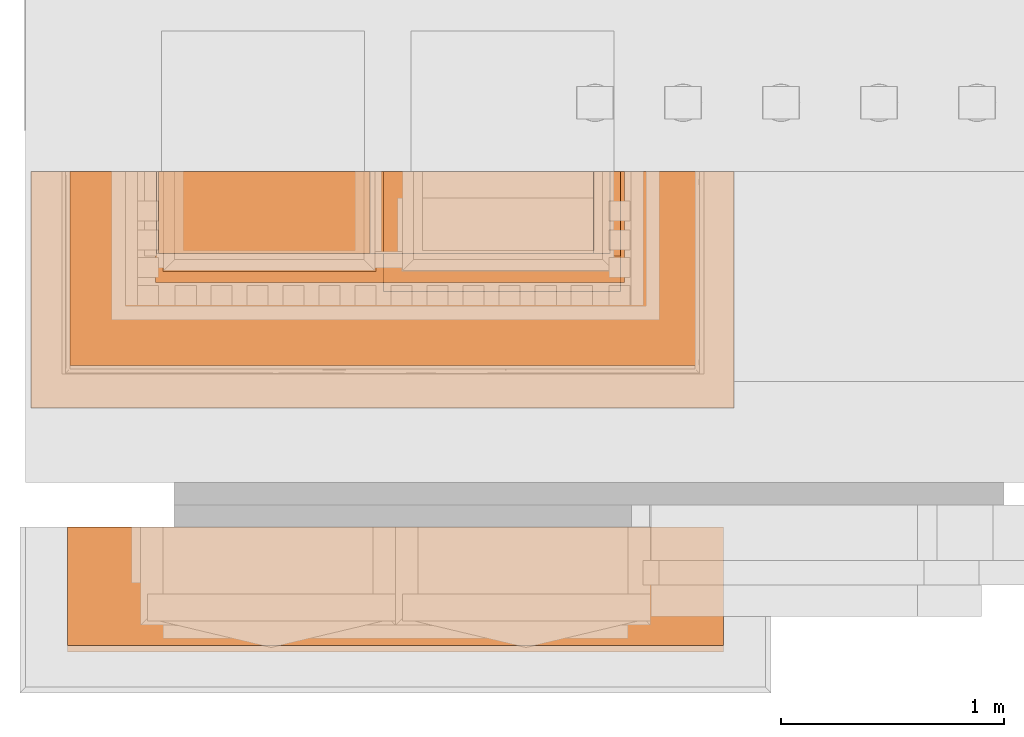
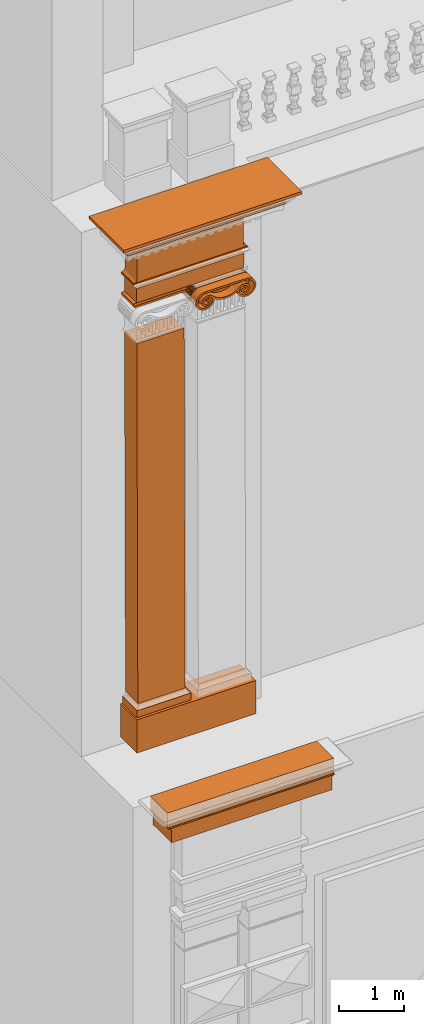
# One storey, part 4 of 44: 15 proxies.
"""IFC2X3 building model written with IfcOpenShell, lengths in metres."""

from ifc_helpers import new_model, entity, si_unit, converted_unit, derived_unit, direction, frame, frame_2d, origin, place, context, subcontext, project, spatial, polyline, circle_curve, parameter, trimmed, segment, composite_curve, rectangle, outline, extrude, material, element, save


model = new_model("IFC2X3")

# Units and contexts
model_context = context("Model", 3, precision=1e-05, world=origin(), true_north=direction((6.12303176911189e-17, 1.0)))
body_context = subcontext(model_context, "Body", "Model", "MODEL_VIEW")
ifc_project = project(units=[si_unit("LENGTHUNIT", "METRE"), si_unit("AREAUNIT", "SQUARE_METRE"), si_unit("VOLUMEUNIT", "CUBIC_METRE"), converted_unit("PLANEANGLEUNIT", "DEGREE", entity("IfcRatioMeasure", 0.0174532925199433), si_unit("PLANEANGLEUNIT", "RADIAN"), dimensions=[0, 0, 0, 0, 0, 0, 0]), si_unit("MASSUNIT", "GRAM", prefix="KILO"), derived_unit("MASSDENSITYUNIT", [(si_unit("MASSUNIT", "GRAM", prefix="KILO"), 1), (si_unit("LENGTHUNIT", "METRE"), -3)]), si_unit("TIMEUNIT", "SECOND"), si_unit("FREQUENCYUNIT", "HERTZ"), si_unit("THERMODYNAMICTEMPERATUREUNIT", "DEGREE_CELSIUS"), derived_unit("THERMALTRANSMITTANCEUNIT", [(si_unit("MASSUNIT", "GRAM", prefix="KILO"), 1), (si_unit("THERMODYNAMICTEMPERATUREUNIT", "KELVIN"), -1), (si_unit("TIMEUNIT", "SECOND"), -3)]), derived_unit("VOLUMETRICFLOWRATEUNIT", [(si_unit("LENGTHUNIT", "METRE"), 3), (si_unit("TIMEUNIT", "SECOND"), -1)]), si_unit("ELECTRICCURRENTUNIT", "AMPERE"), si_unit("ELECTRICVOLTAGEUNIT", "VOLT"), si_unit("POWERUNIT", "WATT"), si_unit("FORCEUNIT", "NEWTON", prefix="KILO"), si_unit("ILLUMINANCEUNIT", "LUX"), si_unit("LUMINOUSFLUXUNIT", "LUMEN"), si_unit("LUMINOUSINTENSITYUNIT", "CANDELA"), derived_unit("USERDEFINED", [(si_unit("MASSUNIT", "GRAM", prefix="KILO"), -1), (si_unit("LENGTHUNIT", "METRE"), -2), (si_unit("TIMEUNIT", "SECOND"), 3), (si_unit("LUMINOUSFLUXUNIT", "LUMEN"), 1)]), derived_unit("LINEARVELOCITYUNIT", [(si_unit("LENGTHUNIT", "METRE"), 1), (si_unit("TIMEUNIT", "SECOND"), -1)]), si_unit("PRESSUREUNIT", "PASCAL"), derived_unit("USERDEFINED", [(si_unit("LENGTHUNIT", "METRE"), -2), (si_unit("MASSUNIT", "GRAM", prefix="KILO"), 1), (si_unit("TIMEUNIT", "SECOND"), -2)])], contexts=[model_context])

# Site, building, storey
site_placement = place(None, origin())
site = spatial("IfcSite", under=ifc_project, at=site_placement, Name="Default", CompositionType="ELEMENT")
building_placement = place(site_placement, origin())
building = spatial("IfcBuilding", under=site, at=building_placement, CompositionType="ELEMENT")
storey_placement = place(building_placement, origin())
storey = spatial("IfcBuildingStorey", under=building, at=storey_placement, Name="Livello 1", CompositionType="ELEMENT", Elevation=0.0)

# Proxies
ifc_material_1 = material(Name="Piperno")
proxy_1_placement = place(storey_placement, frame((-11.9360302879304, -0.89446749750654, 12.793675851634)))
element("IfcBuildingElementProxy", 1, at=proxy_1_placement, inside=storey, material=ifc_material_1, Name="Stratigrafia", context=body_context, shape_type="SweptSolid", body=[
    extrude(outline(composite_curve([segment(polyline([(-1.42260387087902, -0.166572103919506), (1.42260387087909, -0.166572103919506)]), True, "CONTINUOUS"), segment(polyline([(1.42260387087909, -0.166572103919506), (1.42260387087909, 0.0627993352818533)]), True, "CONTINUOUS"), segment(trimmed(circle_curve(frame_2d((1.47038377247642, 0.0554771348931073), x_axis=(0.0417123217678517, 0.999129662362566)), 0.0483377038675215), [parameter(2.47981487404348e-10)], [parameter(83.677923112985)], True, "PARAMETER"), False, "CONTINUOUS"), segment(polyline([(1.47240005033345, 0.103772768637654), (-1.47240005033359, 0.103772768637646)]), True, "CONTINUOUS"), segment(trimmed(circle_curve(frame_2d((-1.47038377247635, 0.0554771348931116), x_axis=(-0.0417123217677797, 0.999129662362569)), 0.0483377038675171), [parameter(276.32207688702)], [parameter(359.999999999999)], True, "PARAMETER"), False, "CONTINUOUS"), segment(polyline([(-1.42260387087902, 0.0627993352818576), (-1.42260387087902, -0.166572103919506)]), True, "CONTINUOUS")], self_intersect=False)), frame((1.47399532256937, 0.0, 0.166572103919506), z_axis=(0.0, 1.0, 0.0), x_axis=(-1.0, 0.0, 0.0)), (0.0, 0.0, 1.0), 0.56),
])
proxy_2_placement = place(storey_placement, frame((-11.9344350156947, -0.86446749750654, 13.0640207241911)))
element("IfcBuildingElementProxy", 2, at=proxy_2_placement, inside=storey, material=ifc_material_1, Name="Stratigrafia", context=body_context, shape_type="SweptSolid", body=[
    extrude(rectangle(XDim=0.0479524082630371, YDim=0.53, at=frame_2d((0.0, 0.0), x_axis=(0.0, 1.0))), frame((0.0, 0.265, 0.0239762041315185), z_axis=(1.0, 0.0, 0.0), x_axis=(0.0, 1.0, 0.0)), (0.0, 0.0, 1.0), 2.94480010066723),
])
proxy_3_placement = place(storey_placement, frame((-11.9344350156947, -0.86446749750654, 13.1119731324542)))
element("IfcBuildingElementProxy", 3, at=proxy_3_placement, inside=storey, material=ifc_material_1, Name="Stratigrafia", context=body_context, shape_type="SweptSolid", body=[
    extrude(rectangle(XDim=0.23659765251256, YDim=0.53, at=frame_2d((2.77555756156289e-17, 0.0), x_axis=(0.0, 1.0))), frame((0.0, 0.265, 0.11829882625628), z_axis=(1.0, 0.0, 0.0), x_axis=(0.0, 1.0, 0.0)), (0.0, 0.0, 1.0), 2.94480010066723),
])
proxy_4_placement = place(storey_placement, frame((-12.0980435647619, 0.20155106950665, 23.2426611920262)))
element("IfcBuildingElementProxy", 4, at=proxy_4_placement, inside=storey, material=ifc_material_1, Name="Stratigrafia", context=body_context, shape_type="SweptSolid", body=[
    extrude(rectangle(XDim=0.0517570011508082, YDim=1.06182166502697, at=frame_2d((0.0, 0.0), x_axis=(0.0, 1.0))), frame((0.0, 0.530910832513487, 0.0258785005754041), z_axis=(1.0, 0.0, 0.0), x_axis=(0.0, 1.0, 0.0)), (0.0, 0.0, 1.0), 3.15558554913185),
])
proxy_5_placement = place(storey_placement, frame((-11.5388194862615, 0.763372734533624, 13.3485707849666)))
element("IfcBuildingElementProxy", 5, at=proxy_5_placement, inside=storey, material=ifc_material_1, Name="Stratigrafia", context=body_context, shape_type="SweptSolid", body=[
    extrude(rectangle(XDim=0.620950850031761, YDim=0.5, at=frame_2d((0.0, 0.0), x_axis=(0.0, 1.0))), frame((0.0, 0.25, 0.310475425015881), z_axis=(1.0, 0.0, 0.0), x_axis=(0.0, 1.0, 0.0)), (0.0, 0.0, 1.0), 2.1056955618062),
])
proxy_6_placement = place(storey_placement, frame((-11.5071073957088, 0.813372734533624, 13.9695216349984)))
element("IfcBuildingElementProxy", 6, at=proxy_6_placement, inside=storey, material=ifc_material_1, Name="Stratigrafia", context=body_context, shape_type="SweptSolid", body=[
    extrude(rectangle(XDim=0.129364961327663, YDim=0.45, at=frame_2d((0.0, 0.0), x_axis=(0.0, 1.0))), frame((0.0, 0.225, 0.0646824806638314), z_axis=(1.0, 0.0, 0.0), x_axis=(0.0, 1.0, 0.0)), (0.0, 0.0, 1.0), 0.95641290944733),
])
proxy_7_placement = place(storey_placement, frame((-11.4712274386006, 0.883372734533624, 14.1698159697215)))
element("IfcBuildingElementProxy", 7, at=proxy_7_placement, inside=storey, material=ifc_material_1, Name="Stratigrafia", context=body_context, shape_type="SweptSolid", body=[
    extrude(rectangle(XDim=6.74573124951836, YDim=0.38, at=frame_2d((0.0, 0.0), x_axis=(0.0, 1.0))), frame((0.00875481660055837, 0.19, 3.37285426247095), z_axis=(0.999996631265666, 0.0, 0.00259566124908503), x_axis=(0.0, 1.0, 0.0)), (0.0, -0.00259566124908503, 0.999996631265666), 0.838920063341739),
])
ifc_material_2 = material(Name="Travertino")
proxy_8_placement = place(storey_placement, frame((-10.5182590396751, 0.723372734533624, 21.2532908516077)))
element("IfcBuildingElementProxy", 8, at=proxy_8_placement, inside=storey, material=ifc_material_2, Name="Stratigrafia", context=body_context, shape_type="SweptSolid", body=[
    extrude(outline(composite_curve([segment(trimmed(circle_curve(frame_2d((0.0787255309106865, -0.360085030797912), x_axis=(1.0, 0.0)), 0.16781941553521), [parameter(138.334994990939)], [parameter(7.37888686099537e-11)], True, "PARAMETER"), True, "CONTINUOUS"), segment(polyline([(0.246544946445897, -0.360085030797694), (0.201674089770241, 0.387005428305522)]), True, "CONTINUOUS"), segment(trimmed(circle_curve(frame_2d((0.0350610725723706, 0.366919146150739), x_axis=(0.992811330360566, 0.119689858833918)), 0.16781941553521), [parameter(359.999999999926)], [parameter(221.665005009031)], True, "PARAMETER"), True, "CONTINUOUS"), segment(trimmed(circle_curve(frame_2d((0.414185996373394, 0.768509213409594), x_axis=(-0.680862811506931, -0.732410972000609)), 0.720026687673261), [parameter(1.57246623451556e-11)], [parameter(0.524781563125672)], True, "PARAMETER"), True, "CONTINUOUS"), segment(trimmed(circle_curve(frame_2d((0.0654093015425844, 0.385758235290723), x_axis=(-0.675623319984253, -0.737246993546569)), 0.202201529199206), [parameter(5.00746529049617e-11)], [parameter(2.78712703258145)], True, "PARAMETER"), True, "CONTINUOUS"), segment(trimmed(circle_curve(frame_2d((0.00343027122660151, 0.3111148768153), x_axis=(-0.63911629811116, -0.76911010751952)), 0.105180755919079), [parameter(359.999999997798)], [parameter(5.29737023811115)], True, "PARAMETER"), True, "CONTINUOUS"), segment(trimmed(circle_curve(frame_2d((-0.0122994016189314, 0.288731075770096), x_axis=(-0.561992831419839, -0.827142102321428)), 0.0778253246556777), [parameter(3.11948803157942e-10)], [parameter(11.8444704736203)], True, "PARAMETER"), True, "CONTINUOUS"), segment(trimmed(circle_curve(frame_2d((-0.00650885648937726, 0.302109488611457), x_axis=(-0.382936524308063, -0.923774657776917)), 0.0924010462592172), [parameter(5.64917400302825e-10)], [parameter(4.23396444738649)], True, "PARAMETER"), True, "CONTINUOUS"), segment(trimmed(circle_curve(frame_2d((0.0100793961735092, 0.315934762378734), x_axis=(0.273943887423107, 0.961745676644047)), 0.111318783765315), [parameter(171.73216175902)], [parameter(203.761085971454)], True, "PARAMETER"), True, "CONTINUOUS"), segment(trimmed(circle_curve(frame_2d((0.351764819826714, 0.0211272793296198), x_axis=(-0.80538962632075, -0.592745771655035)), 0.375004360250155), [parameter(294.170004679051)], [parameter(359.999999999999)], True, "PARAMETER"), True, "CONTINUOUS"), segment(trimmed(circle_curve(frame_2d((0.0478211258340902, -0.312457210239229), x_axis=(0.387085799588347, -0.922043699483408)), 0.111318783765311), [parameter(156.238914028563)], [parameter(188.26783824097)], True, "PARAMETER"), True, "CONTINUOUS"), segment(trimmed(circle_curve(frame_2d((0.029697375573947, -0.300716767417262), x_axis=(-0.49075017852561, 0.871300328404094)), 0.0924010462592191), [parameter(355.766035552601)], [parameter(359.999999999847)], True, "PARAMETER"), True, "CONTINUOUS"), segment(trimmed(circle_curve(frame_2d((0.0223471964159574, -0.28812759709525), x_axis=(-0.656953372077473, 0.753931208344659)), 0.0778253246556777), [parameter(348.155529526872)], [parameter(359.999999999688)], True, "PARAMETER"), True, "CONTINUOUS"), segment(trimmed(circle_curve(frame_2d((0.0406429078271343, -0.308467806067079), x_axis=(-0.726576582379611, 0.687085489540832)), 0.105180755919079), [parameter(354.702629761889)], [parameter(2.20252139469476e-09)], True, "PARAMETER"), True, "CONTINUOUS"), segment(trimmed(circle_curve(frame_2d((0.111110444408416, -0.375156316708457), x_axis=(-0.759007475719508, 0.651081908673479)), 0.202201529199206), [parameter(357.21287296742)], [parameter(359.999999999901)], True, "PARAMETER"), True, "CONTINUOUS"), segment(trimmed(circle_curve(frame_2d((0.503191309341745, -0.713410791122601), x_axis=(-0.763630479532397, 0.645653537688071)), 0.72002668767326), [parameter(359.475218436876)], [parameter(359.999999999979)], True, "PARAMETER"), True, "CONTINUOUS")], self_intersect=False), holes=[composite_curve([segment(trimmed(circle_curve(frame_2d((0.0296569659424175, -0.266373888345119), x_axis=(0.295331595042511, -0.955394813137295)), 0.160844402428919), [parameter(359.999999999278)], [parameter(5.20756886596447)], True, "PARAMETER"), True, "CONTINUOUS"), segment(trimmed(circle_curve(frame_2d((0.0478211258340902, -0.312457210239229), x_axis=(0.387085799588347, -0.922043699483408)), 0.111318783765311), [parameter(359.999999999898)], [parameter(121.742469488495)], True, "PARAMETER"), True, "CONTINUOUS"), segment(trimmed(circle_curve(frame_2d((0.351764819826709, 0.0211272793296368), x_axis=(-0.701786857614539, -0.712386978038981)), 0.341023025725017), [parameter(357.930960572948)], [parameter(1.17553301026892e-11)], True, "PARAMETER"), False, "CONTINUOUS"), segment(trimmed(circle_curve(frame_2d((0.351764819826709, 0.0211272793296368), x_axis=(-0.701786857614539, -0.712386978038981)), 0.341023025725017), [parameter(276.015284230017)], [parameter(357.930960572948)], True, "PARAMETER"), False, "CONTINUOUS"), segment(trimmed(circle_curve(frame_2d((0.0100793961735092, 0.315934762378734), x_axis=(0.273943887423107, 0.961745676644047)), 0.111318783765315), [parameter(238.257530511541)], [parameter(1.04576637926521e-10)], True, "PARAMETER"), True, "CONTINUOUS"), segment(trimmed(circle_curve(frame_2d((-0.00243848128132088, 0.268008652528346), x_axis=(0.178857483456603, 0.983874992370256)), 0.160844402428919), [parameter(354.792431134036)], [parameter(3.45942571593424e-10)], True, "PARAMETER"), True, "CONTINUOUS"), segment(trimmed(circle_curve(frame_2d((0.0120654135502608, 0.348551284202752), x_axis=(-0.97200284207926, 0.234969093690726)), 0.0790065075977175), [parameter(273.188220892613)], [parameter(2.02537722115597e-11)], True, "PARAMETER"), True, "CONTINUOUS"), segment(trimmed(circle_curve(frame_2d((0.02199400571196, 0.35202260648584), x_axis=(-0.899948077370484, -0.435997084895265)), 0.0880266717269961), [parameter(324.278715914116)], [parameter(1.66915509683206e-11)], True, "PARAMETER"), True, "CONTINUOUS"), segment(trimmed(circle_curve(frame_2d((0.00683135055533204, 0.344085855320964), x_axis=(-0.691793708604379, -0.722095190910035)), 0.0709226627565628), [parameter(339.191403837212)], [parameter(359.999999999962)], True, "PARAMETER"), True, "CONTINUOUS"), segment(trimmed(circle_curve(frame_2d((-0.00441833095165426, 0.331612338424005), x_axis=(-0.0602856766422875, -0.998181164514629)), 0.0541354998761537), [parameter(319.148653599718)], [parameter(359.999999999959)], True, "PARAMETER"), True, "CONTINUOUS"), segment(polyline([(-0.0076819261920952, 0.277575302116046), (0.00455059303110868, 0.27767427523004)]), True, "CONTINUOUS"), segment(polyline([(0.00455059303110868, 0.27767427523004), (0.0163739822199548, 0.280802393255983)]), True, "CONTINUOUS"), segment(polyline([(0.0163739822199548, 0.280802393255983), (0.027045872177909, 0.286763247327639)]), True, "CONTINUOUS"), segment(polyline([(0.027045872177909, 0.286763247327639), (0.0358961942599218, 0.29518256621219)]), True, "CONTINUOUS"), segment(polyline([(0.0358961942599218, 0.29518256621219), (0.0423692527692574, 0.305531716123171)]), True, "CONTINUOUS"), segment(polyline([(0.0423692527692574, 0.305531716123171), (0.0460586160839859, 0.317160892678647)]), True, "CONTINUOUS"), segment(polyline([(0.0460586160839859, 0.317160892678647), (0.0467326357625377, 0.329339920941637)]), True, "CONTINUOUS"), segment(polyline([(0.0467326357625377, 0.329339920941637), (0.0443489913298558, 0.341304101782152)]), True, "CONTINUOUS"), segment(trimmed(circle_curve(frame_2d((0.029057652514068, 0.333702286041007), x_axis=(-0.983154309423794, -0.182777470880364)), 0.0170766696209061), [parameter(195.90186506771)], [parameter(3.20599911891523e-12)], True, "PARAMETER"), True, "CONTINUOUS"), segment(trimmed(circle_curve(frame_2d((-0.00183320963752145, 0.325926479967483), x_axis=(0.949609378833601, 0.313435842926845)), 0.0148501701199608), [parameter(257.204928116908)], [parameter(360.0)], True, "PARAMETER"), False, "CONTINUOUS"), segment(trimmed(circle_curve(frame_2d((-0.00196165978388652, 0.326174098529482), x_axis=(0.102214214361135, -0.994762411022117)), 0.0151092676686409), [parameter(347.420423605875)], [parameter(4.57389207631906e-10)], True, "PARAMETER"), False, "CONTINUOUS"), segment(trimmed(circle_curve(frame_2d((-0.00394145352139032, 0.332308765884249), x_axis=(0.010103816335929, -0.999948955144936)), 0.0211414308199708), [parameter(315.114326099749)], [parameter(359.999999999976)], True, "PARAMETER"), False, "CONTINUOUS"), segment(trimmed(circle_curve(frame_2d((0.00683135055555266, 0.344085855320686), x_axis=(-0.688455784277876, -0.725278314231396)), 0.037097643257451), [parameter(338.739254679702)], [parameter(2.05438387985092e-10)], True, "PARAMETER"), False, "CONTINUOUS"), segment(trimmed(circle_curve(frame_2d((0.0219940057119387, 0.352022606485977), x_axis=(-0.898883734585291, -0.43818721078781)), 0.0542016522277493), [parameter(325.321462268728)], [parameter(1.02286638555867e-10)], True, "PARAMETER"), False, "CONTINUOUS"), segment(trimmed(circle_curve(frame_2d((0.0120654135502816, 0.348551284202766), x_axis=(-0.966121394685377, 0.258088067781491)), 0.0451814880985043), [parameter(274.521210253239)], [parameter(2.59533262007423e-11)], True, "PARAMETER"), False, "CONTINUOUS"), segment(trimmed(circle_curve(frame_2d((-0.00243848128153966, 0.268008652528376), x_axis=(0.17861447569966, 0.983919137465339)), 0.127019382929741), [parameter(354.831611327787)], [parameter(359.999999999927)], True, "PARAMETER"), False, "CONTINUOUS"), segment(trimmed(circle_curve(frame_2d((0.00992627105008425, 0.315856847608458), x_axis=(0.276878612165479, 0.960904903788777)), 0.0776109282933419), [parameter(169.426101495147)], [parameter(1.4538951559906e-10)], True, "PARAMETER"), False, "CONTINUOUS"), segment(trimmed(circle_curve(frame_2d((-0.00650885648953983, 0.302109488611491), x_axis=(-0.38373334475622, -0.923443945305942)), 0.0585760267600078), [parameter(2.60703706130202e-10)], [parameter(4.28424685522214)], True, "PARAMETER"), False, "CONTINUOUS"), segment(trimmed(circle_curve(frame_2d((-0.0122994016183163, 0.288731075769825), x_axis=(-0.56074832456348, -0.827986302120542)), 0.0440003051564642), [parameter(3.41464350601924e-11)], [parameter(11.8204528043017)], True, "PARAMETER"), False, "CONTINUOUS"), segment(trimmed(circle_curve(frame_2d((0.00347121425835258, 0.311169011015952), x_axis=(-0.639149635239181, -0.769082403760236)), 0.071423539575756), [parameter(359.999999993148)], [parameter(5.23917008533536)], True, "PARAMETER"), False, "CONTINUOUS"), segment(trimmed(circle_curve(frame_2d((0.0654093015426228, 0.385758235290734), x_axis=(-0.67576849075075, -0.737113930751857)), 0.168376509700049), [parameter(9.52130849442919e-11)], [parameter(2.79841011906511)], True, "PARAMETER"), False, "CONTINUOUS"), segment(trimmed(circle_curve(frame_2d((0.414185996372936, 0.768509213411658), x_axis=(-0.681339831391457, -0.731967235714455)), 0.68620166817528), [parameter(1.32311074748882e-12)], [parameter(0.565071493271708)], True, "PARAMETER"), False, "CONTINUOUS"), segment(trimmed(circle_curve(frame_2d((0.0350610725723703, 0.366919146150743), x_axis=(0.992811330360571, 0.119689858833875)), 0.133994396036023), [parameter(360.0)], [parameter(221.839978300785)], True, "PARAMETER"), False, "CONTINUOUS"), segment(polyline([(0.168092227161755, 0.382956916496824), (0.212470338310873, -0.351910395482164)]), True, "CONTINUOUS"), segment(trimmed(circle_curve(frame_2d((0.078725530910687, -0.360085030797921), x_axis=(1.0, 0.0)), 0.133994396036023), [parameter(138.160021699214)], [parameter(3.49763230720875)], True, "PARAMETER"), False, "CONTINUOUS"), segment(trimmed(circle_curve(frame_2d((0.503191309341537, -0.713410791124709), x_axis=(-0.764050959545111, 0.645155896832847)), 0.68620166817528), [parameter(359.434928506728)], [parameter(359.999999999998)], True, "PARAMETER"), False, "CONTINUOUS"), segment(trimmed(circle_curve(frame_2d((0.111110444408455, -0.375156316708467), x_axis=(-0.759135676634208, 0.65093242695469)), 0.168376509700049), [parameter(357.201589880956)], [parameter(359.999999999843)], True, "PARAMETER"), False, "CONTINUOUS"), segment(trimmed(circle_curve(frame_2d((0.0406900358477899, -0.308516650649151), x_axis=(-0.726606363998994, 0.687053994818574)), 0.0714235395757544), [parameter(354.760829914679)], [parameter(6.52532776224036e-09)], True, "PARAMETER"), False, "CONTINUOUS"), segment(trimmed(circle_curve(frame_2d((0.0223471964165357, -0.288127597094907), x_axis=(-0.655818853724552, 0.754918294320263)), 0.0440003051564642), [parameter(348.179547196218)], [parameter(359.999999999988)], True, "PARAMETER"), False, "CONTINUOUS"), segment(trimmed(circle_curve(frame_2d((0.0296973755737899, -0.300716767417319), x_axis=(-0.491501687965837, 0.870876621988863)), 0.0585760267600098), [parameter(355.715753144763)], [parameter(1.29664853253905e-10)], True, "PARAMETER"), False, "CONTINUOUS"), segment(trimmed(circle_curve(frame_2d((0.0476597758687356, -0.312398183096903), x_axis=(0.389898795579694, -0.92085771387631)), 0.0776109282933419), [parameter(359.999999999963)], [parameter(190.573898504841)], True, "PARAMETER"), False, "CONTINUOUS"), segment(trimmed(circle_curve(frame_2d((0.0296569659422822, -0.266373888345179), x_axis=(0.295095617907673, -0.955467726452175)), 0.127019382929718), [parameter(1.52310402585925e-10)], [parameter(5.1683886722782)], True, "PARAMETER"), False, "CONTINUOUS"), segment(trimmed(circle_curve(frame_2d((0.0536967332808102, -0.344601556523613), x_axis=(-0.928285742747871, -0.371867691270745)), 0.0451814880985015), [parameter(359.999999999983)], [parameter(85.4787897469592)], True, "PARAMETER"), False, "CONTINUOUS"), segment(trimmed(circle_curve(frame_2d((0.0639694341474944, -0.346859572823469), x_axis=(-0.944868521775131, 0.327449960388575)), 0.0542016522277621), [parameter(359.999999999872)], [parameter(34.6785377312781)], True, "PARAMETER"), False, "CONTINUOUS"), segment(trimmed(circle_curve(frame_2d((0.0479658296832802, -0.340794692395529), x_axis=(-0.770315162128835, 0.63766335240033)), 0.0370976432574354), [parameter(359.999999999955)], [parameter(21.2607453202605)], True, "PARAMETER"), False, "CONTINUOUS"), segment(trimmed(circle_curve(frame_2d((0.0358608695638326, -0.330391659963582), x_axis=(-0.109652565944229, 0.993969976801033)), 0.0211414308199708), [parameter(359.999999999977)], [parameter(44.8856739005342)], True, "PARAMETER"), False, "CONTINUOUS"), segment(trimmed(circle_curve(frame_2d((0.0370921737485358, -0.324064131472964), x_axis=(-0.0175835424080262, 0.999845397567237)), 0.0151092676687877), [parameter(359.999999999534)], [parameter(12.5795763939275)], True, "PARAMETER"), False, "CONTINUOUS"), segment(trimmed(circle_curve(frame_2d((0.0371900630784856, -0.323802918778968), x_axis=(0.980298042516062, -0.197524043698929)), 0.0148501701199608), [parameter(3.05333249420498e-13)], [parameter(102.795071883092)], True, "PARAMETER"), False, "CONTINUOUS"), segment(trimmed(circle_curve(frame_2d((0.06878954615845, -0.327825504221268), x_axis=(-0.997963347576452, 0.0637899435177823)), 0.0170766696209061), [parameter(359.999999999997)], [parameter(164.098134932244)], True, "PARAMETER"), True, "CONTINUOUS"), segment(polyline([(0.084880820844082, -0.333542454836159), (0.0858153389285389, -0.321378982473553)]), True, "CONTINUOUS"), segment(polyline([(0.0858153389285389, -0.321378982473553), (0.0836884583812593, -0.30936817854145)]), True, "CONTINUOUS"), segment(polyline([(0.0836884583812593, -0.30936817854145), (0.0786337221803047, -0.298264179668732)]), True, "CONTINUOUS"), segment(polyline([(0.0786337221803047, -0.298264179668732), (0.0709685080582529, -0.288764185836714)]), True, "CONTINUOUS"), segment(polyline([(0.0709685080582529, -0.288764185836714), (0.0611741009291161, -0.28146468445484)]), True, "CONTINUOUS"), segment(polyline([(0.0611741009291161, -0.28146468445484), (0.0498654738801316, -0.276823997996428)]), True, "CONTINUOUS"), segment(polyline([(0.0498654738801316, -0.276823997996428), (0.0377526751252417, -0.275133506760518)]), True, "CONTINUOUS"), segment(polyline([(0.0377526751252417, -0.275133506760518), (0.0255962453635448, -0.276499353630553)]), True, "CONTINUOUS"), segment(trimmed(circle_curve(frame_2d((0.0353040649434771, -0.329757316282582), x_axis=(-0.179324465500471, 0.983789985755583)), 0.054135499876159), [parameter(4.21868772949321e-11)], [parameter(40.8513464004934)], True, "PARAMETER"), True, "CONTINUOUS"), segment(trimmed(circle_curve(frame_2d((0.0479658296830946, -0.340794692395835), x_axis=(-0.773248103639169, 0.634103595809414)), 0.0709226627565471), [parameter(1.98110389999e-10)], [parameter(20.8085961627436)], True, "PARAMETER"), True, "CONTINUOUS"), segment(trimmed(circle_curve(frame_2d((0.0639694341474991, -0.34685957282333), x_axis=(-0.945663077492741, 0.325148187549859)), 0.0880266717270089), [parameter(359.999999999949)], [parameter(35.7212840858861)], True, "PARAMETER"), True, "CONTINUOUS"), segment(trimmed(circle_curve(frame_2d((0.0536967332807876, -0.344601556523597), x_axis=(-0.936892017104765, -0.349618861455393)), 0.0790065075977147), [parameter(359.999999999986)], [parameter(86.8117791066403)], True, "PARAMETER"), True, "CONTINUOUS")], self_intersect=False)]), frame((0.53345877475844, 0.0, 0.112403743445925), z_axis=(0.0, 1.0, 0.0), x_axis=(-0.0599527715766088, 0.0, 0.998201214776)), (0.0, 0.0, 1.0), 0.54),
])
proxy_9_placement = place(storey_placement, frame((-10.5181746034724, 0.883372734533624, 21.2533908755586)))
element("IfcBuildingElementProxy", 9, at=proxy_9_placement, inside=storey, material=ifc_material_2, Name="Stratigrafia", context=body_context, shape_type="SweptSolid", body=[
    extrude(outline(composite_curve([segment(polyline([(-0.374218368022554, -0.123559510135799), (0.374218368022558, -0.123559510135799)]), True, "CONTINUOUS"), segment(trimmed(circle_curve(frame_2d((0.364157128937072, 0.0439580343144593), x_axis=(0.0599527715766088, -0.998201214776)), 0.16781941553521), [parameter(359.999999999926)], [parameter(238.247282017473)], True, "PARAMETER"), True, "CONTINUOUS"), segment(polyline([(0.216417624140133, 0.123559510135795), (-0.216417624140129, 0.123559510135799)]), True, "CONTINUOUS"), segment(trimmed(circle_curve(frame_2d((-0.364157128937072, 0.0439580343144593), x_axis=(-0.0599527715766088, -0.998201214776)), 0.16781941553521), [parameter(121.752717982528)], [parameter(7.45013128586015e-11)], True, "PARAMETER"), True, "CONTINUOUS")], self_intersect=False)), frame((0.533374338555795, 0.0, 0.213257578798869), z_axis=(0.0, 1.0, 0.0), x_axis=(1.0, 0.0, 0.0)), (0.0, 0.0, 1.0), 0.38),
])
proxy_10_placement = place(storey_placement, frame((-11.5257994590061, 0.893372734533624, 21.5902079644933)))
element("IfcBuildingElementProxy", 10, at=proxy_10_placement, inside=storey, Name="Stratigrafia", context=body_context, shape_type="SweptSolid", body=[
    extrude(outline(polyline([(-0.444158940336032, -0.0175491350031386), (0.448323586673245, -0.0175491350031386), (0.472017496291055, 0.0175491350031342), (-0.476182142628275, 0.0175491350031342), (-0.444158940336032, -0.0175491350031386)])), frame((0.47201749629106, 0.0, 0.0175491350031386), z_axis=(0.0, 1.0, 0.0), x_axis=(-1.0, 0.0, 0.0)), (0.0, 0.0, 1.0), 0.37),
])
proxy_11_placement = place(storey_placement, frame((-11.5257994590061, 0.893372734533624, 21.6253062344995)))
element("IfcBuildingElementProxy", 11, at=proxy_11_placement, inside=storey, Name="Stratigrafia", context=body_context, shape_type="SweptSolid", body=[
    extrude(rectangle(XDim=0.0459747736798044, YDim=0.37, at=frame_2d((-6.93889390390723e-17, 0.0), x_axis=(0.0, 1.0))), frame((0.0, 0.185, 0.0229873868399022), z_axis=(1.0, 0.0, 0.0), x_axis=(0.0, 1.0, 0.0)), (0.0, 0.0, 1.0), 0.948246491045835),
])
proxy_12_placement = place(storey_placement, frame((-11.4694425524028, 0.893372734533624, 21.6712810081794)))
element("IfcBuildingElementProxy", 12, at=proxy_12_placement, inside=storey, material=ifc_material_1, Name="Stratigrafia", context=body_context, shape_type="SweptSolid", body=[
    extrude(rectangle(XDim=0.26847379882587, YDim=0.37, at=frame_2d((-6.93889390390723e-17, -2.16493489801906e-15), x_axis=(0.0, 1.0))), frame((0.0, 0.185, 0.134236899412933), z_axis=(1.0, 0.0, 0.0), x_axis=(0.0, 1.0, 0.0)), (0.0, 0.0, 1.0), 1.90592544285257),
])
proxy_13_placement = place(storey_placement, frame((-11.5201339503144, 0.893372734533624, 22.0508411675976)))
element("IfcBuildingElementProxy", 13, at=proxy_13_placement, inside=storey, material=ifc_material_2, Name="Stratigrafia", context=body_context, shape_type="SweptSolid", body=[
    extrude(outline(composite_curve([segment(polyline([(-0.331614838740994, 0.941141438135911), (-0.331614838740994, -0.94754680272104)]), True, "CONTINUOUS"), segment(polyline([(-0.331614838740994, -0.94754680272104), (0.131686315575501, -0.94754680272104)]), True, "CONTINUOUS"), segment(trimmed(circle_curve(frame_2d((0.135911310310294, -1.00733902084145), x_axis=(0.997512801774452, -0.0704855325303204)), 0.059941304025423), [parameter(8.0837501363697)], [parameter(98.0837501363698)], True, "PARAMETER"), False, "CONTINUOUS"), segment(polyline([(0.195703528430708, -1.00311402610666), (0.195703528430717, 1.01592475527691)]), True, "CONTINUOUS"), segment(trimmed(circle_curve(frame_2d((0.110522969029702, 1.02118149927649), x_axis=(0.998101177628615, -0.06159577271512)), 0.0853426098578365), [parameter(293.834950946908)], [parameter(9.40426408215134e-11)], True, "PARAMETER"), False, "CONTINUOUS"), segment(polyline([(0.140136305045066, 0.941141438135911), (-0.331614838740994, 0.941141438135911)]), True, "CONTINUOUS")], self_intersect=False)), frame((1.00470929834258, 0.0, 0.197298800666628), z_axis=(0.0, -1.0, 0.0), x_axis=(0.0, 0.0, -1.0)), (0.0, 0.0, -1.0), 0.37),
])
proxy_14_placement = place(storey_placement, frame((-11.534488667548, 0.893372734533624, 22.0294480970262)))
element("IfcBuildingElementProxy", 14, at=proxy_14_placement, inside=storey, material=ifc_material_1, Name="Stratigrafia", context=body_context, shape_type="SweptSolid", body=[
    extrude(rectangle(XDim=0.0229883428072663, YDim=0.37, at=frame_2d((-6.93889390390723e-17, 0.0), x_axis=(0.0, 1.0))), frame((0.0, 0.185, 0.0114941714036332), z_axis=(1.0, 0.0, 0.0), x_axis=(0.0, 1.0, 0.0)), (0.0, 0.0, 1.0), 2.03498877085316),
])
proxy_15_placement = place(storey_placement, frame((-11.9228312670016, 0.390957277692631, 23.0091180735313)))
element("IfcBuildingElementProxy", 15, at=proxy_15_placement, inside=storey, material=ifc_material_1, Name="Stratigrafia", context=body_context, shape_type="SweptSolid", body=[
    extrude(rectangle(XDim=0.0363925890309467, YDim=0.872415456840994, at=frame_2d((0.0, 0.0), x_axis=(0.0, 1.0))), frame((0.0, 0.436207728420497, 0.0181962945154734), z_axis=(1.0, 0.0, 0.0), x_axis=(0.0, 1.0, 0.0)), (0.0, 0.0, 1.0), 2.80857274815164),
])

save(model, "model.ifc")
